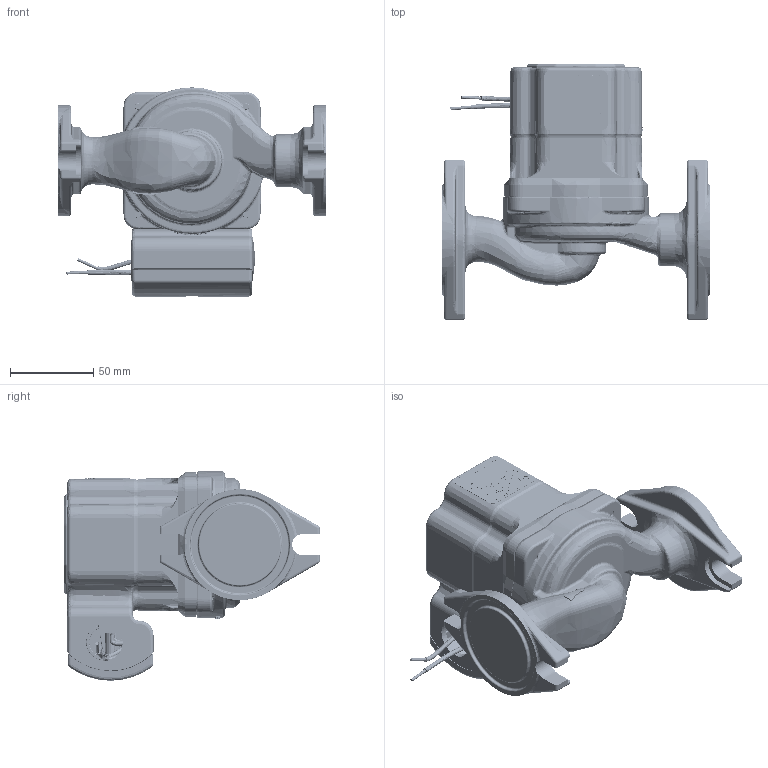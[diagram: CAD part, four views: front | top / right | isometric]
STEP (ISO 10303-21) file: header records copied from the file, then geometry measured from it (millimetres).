
FILE_DESCRIPTION (( 'STEP AP203' ), '1' );
FILE_NAME ('0018e3.STEP', '2020-02-20T14:06:50', ( '' ), ( '' ), 'SwSTEP 2.0', 'SolidWorks 2019', '' );
FILE_SCHEMA (( 'CONFIG_CONTROL_DESIGN' ));
Products named in the file (20): 198-204-12; 198-204-9; 0018e3; 198-204-10; VR1816-HY1-PUR_dummy; 198-203-1; 198-2097CBK_dummy; 198-205; 198-203-2; VR1816-HY1-FC2A00 white wire lead; 198-204-11; 198-2176_198-2176; 10-1163_ISO 7045 - M3 x 16 - Z --- 16N; VR1816-HY1-FC2A00 Black wire lead; 10-1164_PreviewCfg; 198-203; 198-206; 198-204-1; 17-889
Assembly tree (22 placements, depth 4):
  0018e3
    VR1816-HY1-PUR_dummy
      198-204-1
      198-204-9
      198-204-10
      198-204-11
      198-204-12
        198-204-12
    198-2176_198-2176
    198-2097CBK_dummy
    198-203
      198-203-1
      198-203-2
    10-1164_PreviewCfg  x4
    10-1163_ISO 7045 - M3 x 16 - Z --- 16N
    17-889
    VR1816-HY1-FC2A00 Black wire lead
    VR1816-HY1-FC2A00 white wire lead
    198-205
    198-206
Bounding box: 160.78 x 153.77 x 125.7 mm (x, y, z)
Volume: 619711.4 mm3; surface area: 180944.5 mm2
Topology: 175 solids, 175 shells, 17919 faces, 47235 edges, 30329 vertices
Faces by surface type: bspline 9377, plane 6438, cylinder 1557, cone 434, torus 61, sphere 52
Entity records: 942969 total; most frequent: CARTESIAN_POINT 570353, ORIENTED_EDGE 93524, DIRECTION 47166, EDGE_CURVE 46762, VERTEX_POINT 30230, LINE 23208, VECTOR 23208, EDGE_LOOP 18984
